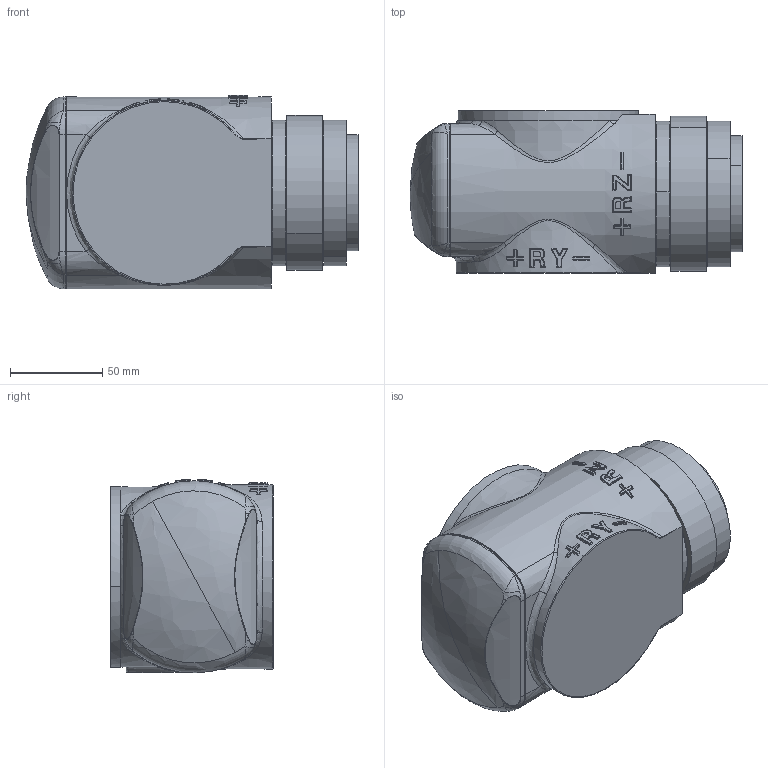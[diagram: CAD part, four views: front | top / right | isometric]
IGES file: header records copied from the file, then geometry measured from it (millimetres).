
Start section: START RECORD GO HERE.
Global section: file name: 60_UMMZ12_J6_ASSY.igs; native system: DASSAULT SYSTEMES CATIA Version 5-6 Release 2012 - www.3ds.com; preprocessor: V5-6R2012_5.22.4.0.11-16-2012.22.00; author: thb441; organization: NACHI-JP; date: 20170719.175236; units: millimetre
Bounding box: 180 x 88 x 104.96 mm (x, y, z)
Volume: 1240408.9 mm3; surface area: 77900.7 mm2
Topology: 1 solids, 1 shells, 588 faces, 1315 edges, 733 vertices
Faces by surface type: bspline 336, revolution 198, plane 54
